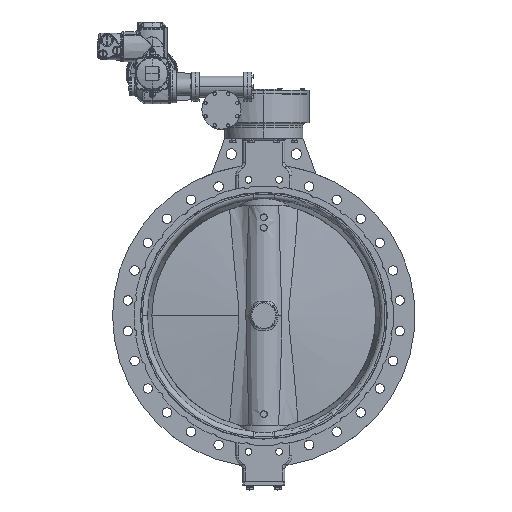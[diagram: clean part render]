
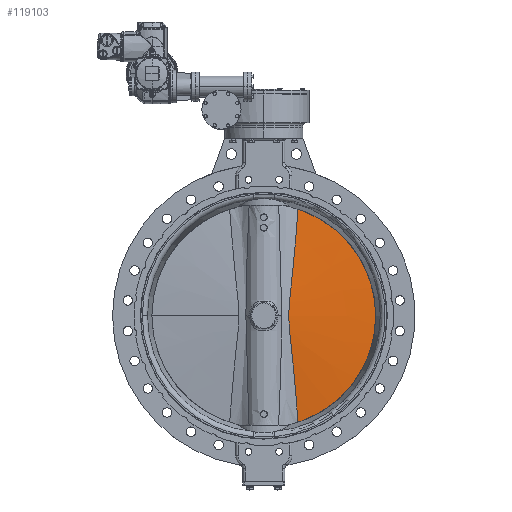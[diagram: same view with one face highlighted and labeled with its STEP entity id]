
A CAD part, top view. The second image highlights one B-rep face of the part: STEP entity #119103.
In plain terms, the highlighted conical face has half-angle 85 degrees and reference radius 429.35 mm.
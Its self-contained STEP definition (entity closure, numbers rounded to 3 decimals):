
#949 = CARTESIAN_POINT ( 'NONE',  ( 96.736, -34.517, 34.105 ) ) ;
#1643 = CARTESIAN_POINT ( 'NONE',  ( 102.477, 93.73, 30.922 ) ) ;
#2324 = CARTESIAN_POINT ( 'NONE',  ( 107.041, 136.288, 27.907 ) ) ;
#3041 = CARTESIAN_POINT ( 'NONE',  ( 95.537, 8.339, 34.681 ) ) ;
#3707 = CARTESIAN_POINT ( 'NONE',  ( 95.792, 16.918, 34.561 ) ) ;
#7118 = CARTESIAN_POINT ( 'NONE',  ( 120.204, -272.678, 16.997 ) ) ;
#10672 = ORIENTED_EDGE ( 'NONE', *, *, #66076, .T. ) ;
#11606 = B_SPLINE_CURVE_WITH_KNOTS ( 'NONE', 3,
 ( #132273, #84547, #194784, #196169, #148394, #33983, #97217, #82512, #34662, #147017, #2324, #50121, #194116, #1643, #99270, #162520, #66290, #99973, #164583, #163207, #3707, #3041, #145641, #68361, #66977, #161837, #98598, #949, #113364, #49418, #179351, #17102, #129522, #114738, #83187, #195477, #115418, #131558, #35377, #147708, #23334, #7118, #182091, #53537, #133644, #22621 ),
 .UNSPECIFIED., .F., .F.,
 ( 4, 2, 2, 2, 2, 2, 2, 2, 2, 2, 2, 2, 2, 2, 2, 2, 2, 2, 2, 2, 2, 2, 4 ),
 ( 0., 0.103, 0.154, 0.206, 0.257, 0.283, 0.309, 0.335, 0.36, 0.386, 0.399, 0.412, 0.425, 0.438, 0.463, 0.489, 0.515, 0.541, 0.566, 0.618, 0.669, 0.721, 0.824 ),
 .UNSPECIFIED. ) ;
#17102 = CARTESIAN_POINT ( 'NONE',  ( 101.603, -85.617, 31.452 ) ) ;
#22621 = CARTESIAN_POINT ( 'NONE',  ( 130.945, -408.895, 5.5 ) ) ;
#23334 = CARTESIAN_POINT ( 'NONE',  ( 117.167, -238.651, 19.809 ) ) ;
#28723 = EDGE_LOOP ( 'NONE', ( #129831, #10672 ) ) ;
#33983 = CARTESIAN_POINT ( 'NONE',  ( 117.147, 238.437, 19.826 ) ) ;
#34662 = CARTESIAN_POINT ( 'NONE',  ( 110.582, 170.33, 25.312 ) ) ;
#35377 = CARTESIAN_POINT ( 'NONE',  ( 112.314, -187.63, 23.941 ) ) ;
#49418 = CARTESIAN_POINT ( 'NONE',  ( 98.965, -60.09, 32.953 ) ) ;
#50121 = CARTESIAN_POINT ( 'NONE',  ( 105.227, 119.267, 29.154 ) ) ;
#53537 = CARTESIAN_POINT ( 'NONE',  ( 125.893, -340.761, 11.293 ) ) ;
#61258 = DIRECTION ( 'NONE',  ( 0., 0., -1. ) ) ;
#66076 = EDGE_CURVE ( 'NONE', #71596, #78042, #11606, .T. ) ;
#66290 = CARTESIAN_POINT ( 'NONE',  ( 98.921, 59.648, 32.977 ) ) ;
#66977 = CARTESIAN_POINT ( 'NONE',  ( 95.547, -8.844, 34.676 ) ) ;
#68361 = CARTESIAN_POINT ( 'NONE',  ( 95.477, -4.553, 34.709 ) ) ;
#69932 = CARTESIAN_POINT ( 'NONE',  ( 130.945, -408.895, 5.5 ) ) ;
#71596 = VERTEX_POINT ( 'NONE', #145524 ) ;
#78042 = VERTEX_POINT ( 'NONE', #69932 ) ;
#82512 = CARTESIAN_POINT ( 'NONE',  ( 112.286, 187.353, 23.963 ) ) ;
#83187 = CARTESIAN_POINT ( 'NONE',  ( 105.266, -119.627, 29.128 ) ) ;
#84547 = CARTESIAN_POINT ( 'NONE',  ( 128.501, 374.778, 8.408 ) ) ;
#94395 = CARTESIAN_POINT ( 'NONE',  ( 0., 0., 5.5 ) ) ;
#96942 = CIRCLE ( 'NONE', #124561, 429.35 ) ;
#97217 = CARTESIAN_POINT ( 'NONE',  ( 115.568, 221.406, 21.221 ) ) ;
#98598 = CARTESIAN_POINT ( 'NONE',  ( 96.005, -21.694, 34.459 ) ) ;
#99270 = CARTESIAN_POINT ( 'NONE',  ( 101.56, 85.215, 31.477 ) ) ;
#99973 = CARTESIAN_POINT ( 'NONE',  ( 97.38, 42.582, 33.786 ) ) ;
#107096 = CONICAL_SURFACE ( 'NONE', #168085, 429.35, 1.484 ) ;
#110535 = DIRECTION ( 'NONE',  ( 1., 0., 0. ) ) ;
#111120 = CARTESIAN_POINT ( 'NONE',  ( 0., 0., 5.5 ) ) ;
#113364 = CARTESIAN_POINT ( 'NONE',  ( 97.419, -43.048, 33.766 ) ) ;
#114738 = CARTESIAN_POINT ( 'NONE',  ( 104.35, -111.127, 29.735 ) ) ;
#115418 = CARTESIAN_POINT ( 'NONE',  ( 107.971, -145.127, 27.242 ) ) ;
#119103 = ADVANCED_FACE ( 'NONE', ( #142190 ), #107096, .T. ) ;
#124561 = AXIS2_PLACEMENT_3D ( 'NONE', #94395, #175159, #110535 ) ;
#129522 = CARTESIAN_POINT ( 'NONE',  ( 102.519, -94.122, 30.896 ) ) ;
#129831 = ORIENTED_EDGE ( 'NONE', *, *, #192826, .T. ) ;
#131558 = CARTESIAN_POINT ( 'NONE',  ( 110.612, -170.628, 25.288 ) ) ;
#132273 = CARTESIAN_POINT ( 'NONE',  ( 130.945, 408.895, 5.5 ) ) ;
#133644 = CARTESIAN_POINT ( 'NONE',  ( 128.504, -374.821, 8.404 ) ) ;
#142190 = FACE_OUTER_BOUND ( 'NONE', #28723, .T. ) ;
#145524 = CARTESIAN_POINT ( 'NONE',  ( 130.945, 408.895, 5.5 ) ) ;
#145641 = CARTESIAN_POINT ( 'NONE',  ( 95.472, 4.042, 34.712 ) ) ;
#147017 = CARTESIAN_POINT ( 'NONE',  ( 107.937, 144.798, 27.267 ) ) ;
#147708 = CARTESIAN_POINT ( 'NONE',  ( 115.59, -221.641, 21.202 ) ) ;
#148394 = CARTESIAN_POINT ( 'NONE',  ( 120.189, 272.507, 17.011 ) ) ;
#161837 = CARTESIAN_POINT ( 'NONE',  ( 95.811, -17.414, 34.552 ) ) ;
#162520 = CARTESIAN_POINT ( 'NONE',  ( 99.783, 68.173, 32.505 ) ) ;
#163207 = CARTESIAN_POINT ( 'NONE',  ( 95.981, 21.202, 34.471 ) ) ;
#164583 = CARTESIAN_POINT ( 'NONE',  ( 96.701, 34.04, 34.122 ) ) ;
#168085 = AXIS2_PLACEMENT_3D ( 'NONE', #111120, #61258, #205256 ) ;
#175159 = DIRECTION ( 'NONE',  ( 0., 0., 1. ) ) ;
#179351 = CARTESIAN_POINT ( 'NONE',  ( 99.827, -68.601, 32.48 ) ) ;
#182091 = CARTESIAN_POINT ( 'NONE',  ( 121.665, -289.696, 15.577 ) ) ;
#192826 = EDGE_CURVE ( 'NONE', #78042, #71596, #96942, .T. ) ;
#194116 = CARTESIAN_POINT ( 'NONE',  ( 104.31, 110.756, 29.761 ) ) ;
#194784 = CARTESIAN_POINT ( 'NONE',  ( 125.886, 340.675, 11.301 ) ) ;
#195477 = CARTESIAN_POINT ( 'NONE',  ( 107.076, -136.628, 27.882 ) ) ;
#196169 = CARTESIAN_POINT ( 'NONE',  ( 121.652, 289.546, 15.59 ) ) ;
#205256 = DIRECTION ( 'NONE',  ( -1., 0., 0. ) ) ;
